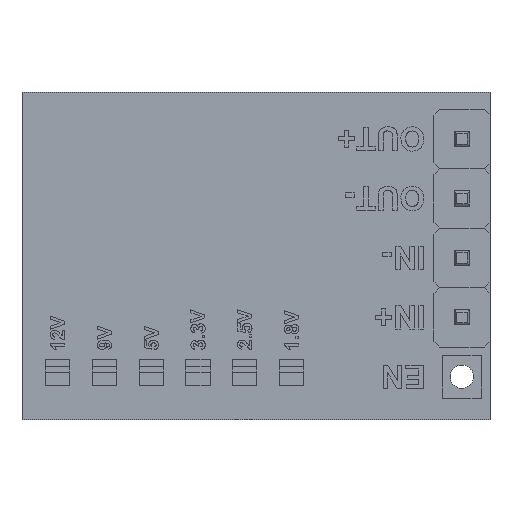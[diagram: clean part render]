
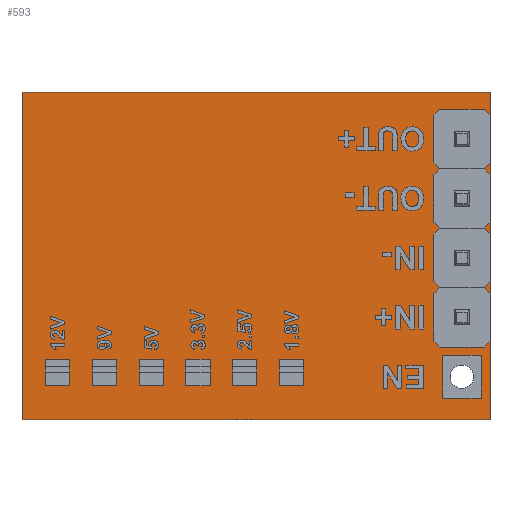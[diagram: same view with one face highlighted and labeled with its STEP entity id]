
A CAD part, front view. The second image highlights one B-rep face of the part: STEP entity #593.
In plain terms, the highlighted planar face has unit normal (0, -1, 0).
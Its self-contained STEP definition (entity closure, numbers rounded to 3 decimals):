
#212=DIRECTION('',(0.,0.,-1.));
#213=VECTOR('',#212,14.);
#214=CARTESIAN_POINT('',(0.15,0.,11.2));
#215=LINE('',#214,#213);
#219=DIRECTION('',(0.,0.,-1.));
#220=VECTOR('',#219,14.);
#221=CARTESIAN_POINT('',(20.15,0.,11.2));
#222=LINE('',#221,#220);
#226=CARTESIAN_POINT('',(18.95,0.,9.2));
#227=DIRECTION('',(0.,1.,0.));
#228=DIRECTION('',(-1.,0.,0.));
#229=AXIS2_PLACEMENT_3D('',#226,#227,#228);
#234=CARTESIAN_POINT('',(18.95,0.,9.2));
#235=DIRECTION('',(0.,1.,0.));
#236=DIRECTION('',(1.,0.,0.));
#237=AXIS2_PLACEMENT_3D('',#234,#235,#236);
#242=CARTESIAN_POINT('',(18.95,0.,6.66));
#243=DIRECTION('',(0.,1.,0.));
#244=DIRECTION('',(-1.,0.,0.));
#245=AXIS2_PLACEMENT_3D('',#242,#243,#244);
#250=CARTESIAN_POINT('',(18.95,0.,6.66));
#251=DIRECTION('',(0.,1.,0.));
#252=DIRECTION('',(1.,0.,0.));
#253=AXIS2_PLACEMENT_3D('',#250,#251,#252);
#258=CARTESIAN_POINT('',(18.95,0.,4.12));
#259=DIRECTION('',(0.,1.,0.));
#260=DIRECTION('',(-1.,0.,0.));
#261=AXIS2_PLACEMENT_3D('',#258,#259,#260);
#266=CARTESIAN_POINT('',(18.95,0.,4.12));
#267=DIRECTION('',(0.,1.,0.));
#268=DIRECTION('',(1.,0.,0.));
#269=AXIS2_PLACEMENT_3D('',#266,#267,#268);
#274=CARTESIAN_POINT('',(18.95,0.,1.58));
#275=DIRECTION('',(0.,1.,0.));
#276=DIRECTION('',(-1.,0.,0.));
#277=AXIS2_PLACEMENT_3D('',#274,#275,#276);
#282=CARTESIAN_POINT('',(18.95,0.,1.58));
#283=DIRECTION('',(0.,1.,0.));
#284=DIRECTION('',(1.,0.,0.));
#285=AXIS2_PLACEMENT_3D('',#282,#283,#284);
#290=CARTESIAN_POINT('',(18.95,0.,-0.96));
#291=DIRECTION('',(0.,1.,0.));
#292=DIRECTION('',(-1.,0.,0.));
#293=AXIS2_PLACEMENT_3D('',#290,#291,#292);
#298=CARTESIAN_POINT('',(18.95,0.,-0.96));
#299=DIRECTION('',(0.,1.,0.));
#300=DIRECTION('',(1.,0.,0.));
#301=AXIS2_PLACEMENT_3D('',#298,#299,#300);
#334=DIRECTION('',(-1.,0.,0.));
#335=VECTOR('',#334,20.);
#336=CARTESIAN_POINT('',(20.15,0.,-2.8));
#337=LINE('',#336,#335);
#341=DIRECTION('',(1.,0.,0.));
#342=VECTOR('',#341,20.);
#343=CARTESIAN_POINT('',(0.15,0.,11.2));
#344=LINE('',#343,#342);
#433=CARTESIAN_POINT('',(0.15,0.,11.2));
#435=VERTEX_POINT('',#433);
#437=CARTESIAN_POINT('',(20.15,0.,11.2));
#439=VERTEX_POINT('',#437);
#441=CARTESIAN_POINT('',(20.15,0.,-2.8));
#443=VERTEX_POINT('',#441);
#444=CARTESIAN_POINT('',(0.15,0.,-2.8));
#445=VERTEX_POINT('',#444);
#464=CARTESIAN_POINT('',(18.34,0.,9.2));
#465=CARTESIAN_POINT('',(19.56,0.,9.2));
#466=VERTEX_POINT('',#464);
#467=VERTEX_POINT('',#465);
#468=CARTESIAN_POINT('',(18.34,0.,6.66));
#469=CARTESIAN_POINT('',(19.56,0.,6.66));
#470=VERTEX_POINT('',#468);
#471=VERTEX_POINT('',#469);
#472=CARTESIAN_POINT('',(18.34,0.,4.12));
#473=CARTESIAN_POINT('',(19.56,0.,4.12));
#474=VERTEX_POINT('',#472);
#475=VERTEX_POINT('',#473);
#476=CARTESIAN_POINT('',(18.34,0.,1.58));
#477=CARTESIAN_POINT('',(19.56,0.,1.58));
#478=VERTEX_POINT('',#476);
#479=VERTEX_POINT('',#477);
#484=CARTESIAN_POINT('',(18.34,0.,-0.96));
#485=CARTESIAN_POINT('',(19.56,0.,-0.96));
#486=VERTEX_POINT('',#484);
#487=VERTEX_POINT('',#485);
#549=CARTESIAN_POINT('',(10.15,0.,5.7));
#550=DIRECTION('',(0.,1.,0.));
#551=DIRECTION('',(1.,0.,0.));
#552=AXIS2_PLACEMENT_3D('',#549,#550,#551);
#553=PLANE('',#552);
#555=ORIENTED_EDGE('',*,*,#554,.T.);
#557=ORIENTED_EDGE('',*,*,#556,.T.);
#558=ORIENTED_EDGE('',*,*,#539,.F.);
#560=ORIENTED_EDGE('',*,*,#559,.T.);
#561=EDGE_LOOP('',(#555,#557,#558,#560));
#562=FACE_OUTER_BOUND('',#561,.F.);
#564=ORIENTED_EDGE('',*,*,#563,.F.);
#566=ORIENTED_EDGE('',*,*,#565,.F.);
#567=EDGE_LOOP('',(#564,#566));
#568=FACE_BOUND('',#567,.F.);
#570=ORIENTED_EDGE('',*,*,#569,.F.);
#572=ORIENTED_EDGE('',*,*,#571,.F.);
#573=EDGE_LOOP('',(#570,#572));
#574=FACE_BOUND('',#573,.F.);
#576=ORIENTED_EDGE('',*,*,#575,.F.);
#578=ORIENTED_EDGE('',*,*,#577,.F.);
#579=EDGE_LOOP('',(#576,#578));
#580=FACE_BOUND('',#579,.F.);
#582=ORIENTED_EDGE('',*,*,#581,.F.);
#584=ORIENTED_EDGE('',*,*,#583,.F.);
#585=EDGE_LOOP('',(#582,#584));
#586=FACE_BOUND('',#585,.F.);
#588=ORIENTED_EDGE('',*,*,#587,.F.);
#590=ORIENTED_EDGE('',*,*,#589,.F.);
#591=EDGE_LOOP('',(#588,#590));
#592=FACE_BOUND('',#591,.F.);
#593=ADVANCED_FACE('',(#562,#568,#574,#580,#586,#592),#553,.F.);
#230=CIRCLE('',#229,0.61);
#238=CIRCLE('',#237,0.61);
#246=CIRCLE('',#245,0.61);
#254=CIRCLE('',#253,0.61);
#262=CIRCLE('',#261,0.61);
#270=CIRCLE('',#269,0.61);
#278=CIRCLE('',#277,0.61);
#286=CIRCLE('',#285,0.61);
#294=CIRCLE('',#293,0.61);
#302=CIRCLE('',#301,0.61);
#539=EDGE_CURVE('',#435,#445,#215,.T.);
#554=EDGE_CURVE('',#439,#443,#222,.T.);
#556=EDGE_CURVE('',#443,#445,#337,.T.);
#559=EDGE_CURVE('',#435,#439,#344,.T.);
#563=EDGE_CURVE('',#466,#467,#230,.T.);
#565=EDGE_CURVE('',#467,#466,#238,.T.);
#569=EDGE_CURVE('',#470,#471,#246,.T.);
#571=EDGE_CURVE('',#471,#470,#254,.T.);
#575=EDGE_CURVE('',#474,#475,#262,.T.);
#577=EDGE_CURVE('',#475,#474,#270,.T.);
#581=EDGE_CURVE('',#478,#479,#278,.T.);
#583=EDGE_CURVE('',#479,#478,#286,.T.);
#587=EDGE_CURVE('',#486,#487,#294,.T.);
#589=EDGE_CURVE('',#487,#486,#302,.T.);
